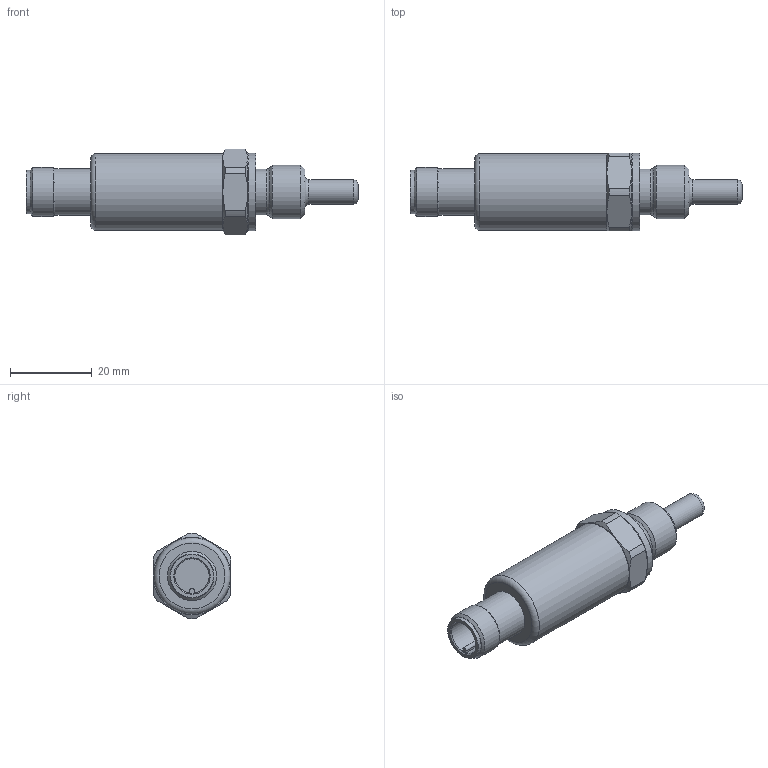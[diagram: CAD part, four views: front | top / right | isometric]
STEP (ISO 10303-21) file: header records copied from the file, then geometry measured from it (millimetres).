
FILE_DESCRIPTION( ( 'STEP AP203' ), ' ' );
FILE_NAME( 'p:/temp/worker_61/4848_2444/app_43_02016051809074171742993192d056f_000000_00_00_000000/format_2/TU3105.stp', '2016-05-18T07:07:42', ( '' ), ( '' ), ' ', 'PARTsolutions', ' ' );
FILE_SCHEMA( ( 'CONFIG_CONTROL_DESIGN' ) );
Length unit declared in the file: millimetre
Products named in the file (1): _TU3105
Bounding box: 81.3 x 19.08 x 20.99 mm (x, y, z)
Volume: 14344.8 mm3; surface area: 4523.7 mm2
Topology: 1 solids, 1 shells, 61 faces, 141 edges, 88 vertices
Faces by surface type: plane 23, cone 17, cylinder 16, torus 5
Full cylindrical faces by diameter (mm): 6 x1, 8.4 x1, 10.6 x1, 11.2 x1, 11.3 x1, 12 x1, 13.157 x1, 18.72 x1, 18.9 x1
Entity records: 1760 total; most frequent: CARTESIAN_POINT 440, DIRECTION 266, ORIENTED_EDGE 240, AXIS2_PLACEMENT_3D 120, EDGE_CURVE 120, EDGE_LOOP 86, VERTEX_POINT 86, FACE_OUTER_BOUND 75
